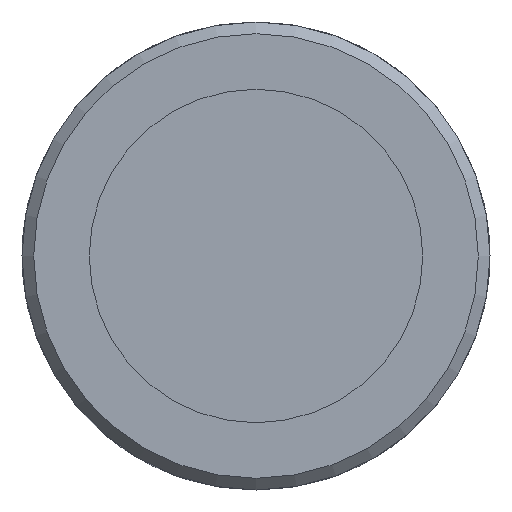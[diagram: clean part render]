
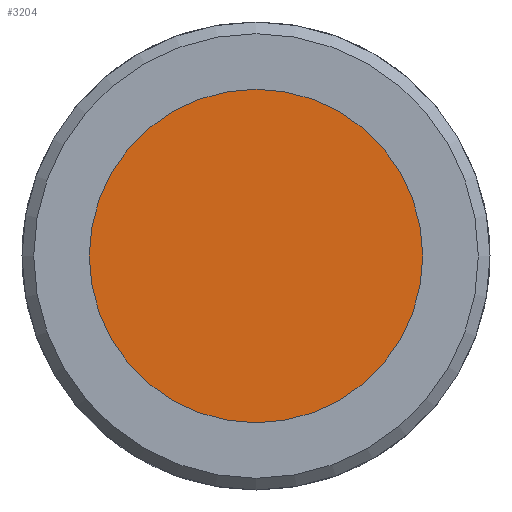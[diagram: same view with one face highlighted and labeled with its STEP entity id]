
A CAD part, left-side view. The second image highlights one B-rep face of the part: STEP entity #3204.
In plain terms, the highlighted planar face has unit normal (-1, 0, 0).
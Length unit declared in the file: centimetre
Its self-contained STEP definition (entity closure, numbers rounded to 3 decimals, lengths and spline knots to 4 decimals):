
#841=CIRCLE('',#3406,2.85);
#934=VERTEX_POINT('',#4161);
#1475=EDGE_CURVE('',#934,#934,#841,.T.);
#1897=ORIENTED_EDGE('',*,*,#1475,.T.);
#2720=EDGE_LOOP('',(#1897));
#2963=FACE_BOUND('',#2720,.T.);
#3204=ADVANCED_FACE('',(#2963),#18512,.T.);
#3406=AXIS2_PLACEMENT_3D('',#4160,#3642,#3643);
#3408=AXIS2_PLACEMENT_3D('',#4164,#3646,$);
#3642=DIRECTION('',(-1.,0.,0.));
#3643=DIRECTION('',(0.,0.,2.85));
#3646=DIRECTION('',(-1.,0.,0.));
#4160=CARTESIAN_POINT('',(0.1,0.,0.));
#4161=CARTESIAN_POINT('',(0.1,0.,2.85));
#4164=CARTESIAN_POINT('',(0.1,0.,0.));
#18512=PLANE('',#3408);
